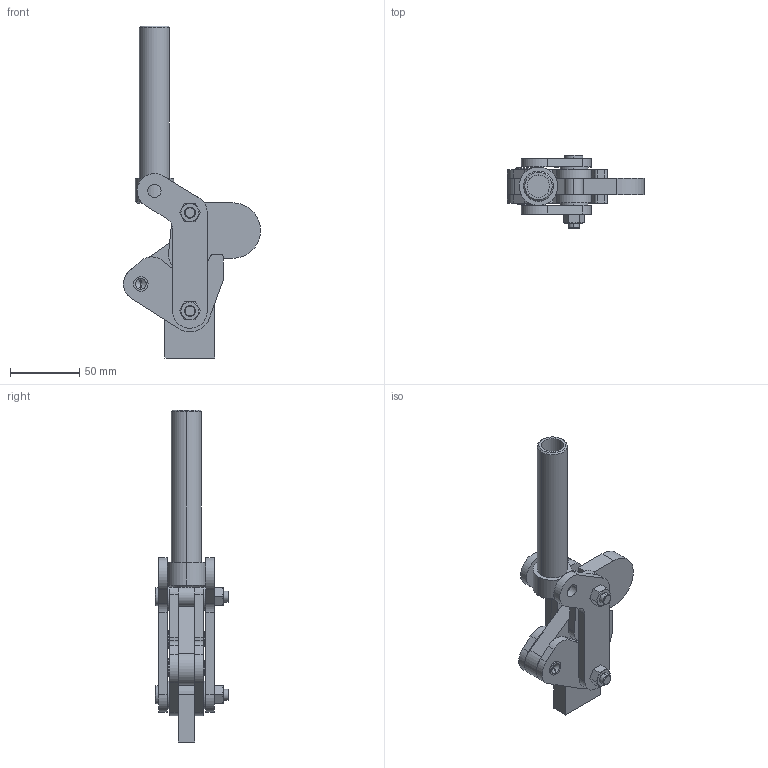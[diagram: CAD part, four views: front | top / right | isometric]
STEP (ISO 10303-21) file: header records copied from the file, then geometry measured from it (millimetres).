
FILE_DESCRIPTION(('CATIA V5 STEP Exchange'),'2;1');
FILE_NAME('D:\Model\toggle\toggle_standard\KJF_VR_02.stp','2005-06-24T05:20:48+00:00',('none'),('none'),'CATIA Version 5 Release 11 (IN-9)','CATIA V5 STEP AP203',' none');
FILE_SCHEMA(('CONFIG_CONTROL_DESIGN'));
Length unit declared in the file: millimetre
Products named in the file (1): Part1
Bounding box: 99 x 53 x 239.7 mm (x, y, z)
Volume: 180117.6 mm3; surface area: 81809.9 mm2
Topology: 23 solids, 23 shells, 285 faces, 647 edges, 424 vertices
Faces by surface type: cylinder 143, plane 110, cone 32
Entity records: 7729 total; most frequent: CARTESIAN_POINT 1619, ORIENTED_EDGE 1286, DIRECTION 1009, EDGE_CURVE 643, AXIS2_PLACEMENT_3D 526, VERTEX_POINT 424, EDGE_LOOP 359, CIRCLE 318
